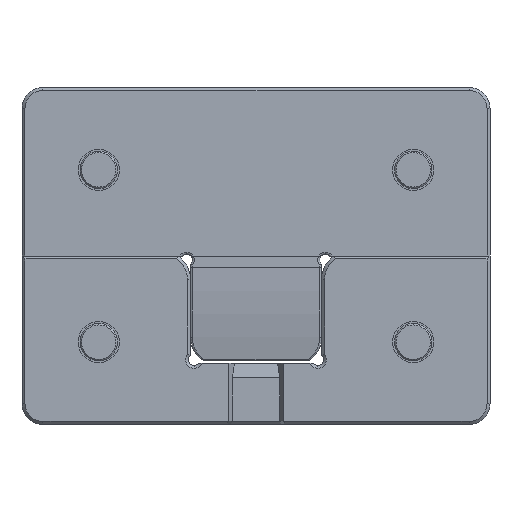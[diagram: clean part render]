
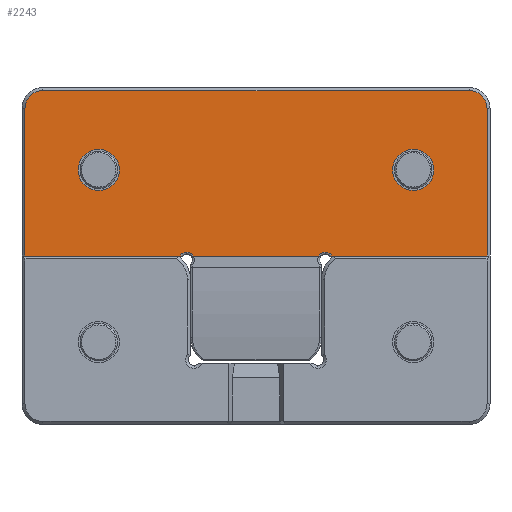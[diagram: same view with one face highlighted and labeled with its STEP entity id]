
A CAD part, front view. The second image highlights one B-rep face of the part: STEP entity #2243.
In plain terms, the highlighted planar face has unit normal (0, -1, 0).
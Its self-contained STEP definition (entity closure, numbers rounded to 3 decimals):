
#843 = PLANE ( 'NONE',  #1197 ) ;
#844 = CARTESIAN_POINT ( 'NONE',  ( -62.5, -25., 0. ) ) ;
#845 = DIRECTION ( 'NONE',  ( 0., 1., 0. ) ) ;
#846 = DIRECTION ( 'NONE',  ( 0., 0., 1. ) ) ;
#1197 = AXIS2_PLACEMENT_3D ( 'NONE', #844, #845, #846 ) ;
#1340 = AXIS2_PLACEMENT_3D ( 'NONE', #3531, #3533, #3534 ) ;
#1343 = AXIS2_PLACEMENT_3D ( 'NONE', #5605, #5607, #5609 ) ;
#1344 = AXIS2_PLACEMENT_3D ( 'NONE', #5591, #5597, #5599 ) ;
#1346 = AXIS2_PLACEMENT_3D ( 'NONE', #5602, #5635, #5636 ) ;
#1389 = AXIS2_PLACEMENT_3D ( 'NONE', #5836, #5838, #5839 ) ;
#1390 = AXIS2_PLACEMENT_3D ( 'NONE', #1488, #1502, #1503 ) ;
#1391 = AXIS2_PLACEMENT_3D ( 'NONE', #1501, #1508, #1509 ) ;
#1392 = AXIS2_PLACEMENT_3D ( 'NONE', #1485, #1505, #1506 ) ;
#1393 = AXIS2_PLACEMENT_3D ( 'NONE', #1504, #1511, #1512 ) ;
#1396 = AXIS2_PLACEMENT_3D ( 'NONE', #1510, #1521, #1522 ) ;
#1481 = CARTESIAN_POINT ( 'NONE',  ( -61.7, -25., -45. ) ) ;
#1482 = DIRECTION ( 'NONE',  ( 0., 0., -1. ) ) ;
#1485 = CARTESIAN_POINT ( 'NONE',  ( 42., -25., -22. ) ) ;
#1488 = CARTESIAN_POINT ( 'NONE',  ( -56.9, -25., -5.6 ) ) ;
#1500 = DIRECTION ( 'NONE',  ( 0., 0., 1. ) ) ;
#1501 = CARTESIAN_POINT ( 'NONE',  ( -42., -25., -22. ) ) ;
#1502 = DIRECTION ( 'NONE',  ( 0., -1., 0. ) ) ;
#1503 = DIRECTION ( 'NONE',  ( 0., 0., 1. ) ) ;
#1504 = CARTESIAN_POINT ( 'NONE',  ( 18.507, -25., -46.01 ) ) ;
#1505 = DIRECTION ( 'NONE',  ( 0., 1., 0. ) ) ;
#1506 = DIRECTION ( 'NONE',  ( 0., 0., 1. ) ) ;
#1508 = DIRECTION ( 'NONE',  ( 0., 1., 0. ) ) ;
#1509 = DIRECTION ( 'NONE',  ( 0., 0., 1. ) ) ;
#1510 = CARTESIAN_POINT ( 'NONE',  ( 56.9, -25., -5.6 ) ) ;
#1511 = DIRECTION ( 'NONE',  ( 0., 1., 0. ) ) ;
#1512 = DIRECTION ( 'NONE',  ( 0., 0., 1. ) ) ;
#1513 = CARTESIAN_POINT ( 'NONE',  ( -62.5, -25., -45. ) ) ;
#1514 = DIRECTION ( 'NONE',  ( 1., 0., 0. ) ) ;
#1518 = CARTESIAN_POINT ( 'NONE',  ( -56.9, -25., -0.8 ) ) ;
#1519 = DIRECTION ( 'NONE',  ( -1., 0., 0. ) ) ;
#1521 = DIRECTION ( 'NONE',  ( 0., -1., 0. ) ) ;
#1522 = DIRECTION ( 'NONE',  ( 0., 0., 1. ) ) ;
#1927 = VERTEX_POINT ( 'NONE', #3553 ) ;
#1928 = VERTEX_POINT ( 'NONE', #3554 ) ;
#2243 = ADVANCED_FACE ( 'NONE', ( #7639, #7636, #7643 ), #843, .F. ) ;
#2465 = EDGE_LOOP ( 'NONE', ( #2523, #2524 ) ) ;
#2472 = EDGE_LOOP ( 'NONE', ( #2525, #2526, #2527, #2528, #2529, #2530, #2531, #2532, #2533, #2534, #2535, #2536 ) ) ;
#2521 = ORIENTED_EDGE ( 'NONE', *, *, #4299, .T. ) ;
#2522 = ORIENTED_EDGE ( 'NONE', *, *, #4196, .T. ) ;
#2523 = ORIENTED_EDGE ( 'NONE', *, *, #4300, .T. ) ;
#2524 = ORIENTED_EDGE ( 'NONE', *, *, #4204, .T. ) ;
#2525 = ORIENTED_EDGE ( 'NONE', *, *, #4298, .T. ) ;
#2526 = ORIENTED_EDGE ( 'NONE', *, *, #4288, .T. ) ;
#2527 = ORIENTED_EDGE ( 'NONE', *, *, #4257, .F. ) ;
#2528 = ORIENTED_EDGE ( 'NONE', *, *, #4206, .T. ) ;
#2529 = ORIENTED_EDGE ( 'NONE', *, *, #4283, .T. ) ;
#2530 = ORIENTED_EDGE ( 'NONE', *, *, #4302, .T. ) ;
#2531 = ORIENTED_EDGE ( 'NONE', *, *, #4210, .T. ) ;
#2532 = ORIENTED_EDGE ( 'NONE', *, *, #4301, .T. ) ;
#2533 = ORIENTED_EDGE ( 'NONE', *, *, #4282, .F. ) ;
#2534 = ORIENTED_EDGE ( 'NONE', *, *, #4297, .T. ) ;
#2535 = ORIENTED_EDGE ( 'NONE', *, *, #4305, .T. ) ;
#2536 = ORIENTED_EDGE ( 'NONE', *, *, #4304, .T. ) ;
#3531 = CARTESIAN_POINT ( 'NONE',  ( 42., -25., -22. ) ) ;
#3533 = DIRECTION ( 'NONE',  ( 0., 1., 0. ) ) ;
#3534 = DIRECTION ( 'NONE',  ( 0., 0., 1. ) ) ;
#3553 = CARTESIAN_POINT ( 'NONE',  ( 42., -25., -27.5 ) ) ;
#3554 = CARTESIAN_POINT ( 'NONE',  ( 42., -25., -16.5 ) ) ;
#4196 = EDGE_CURVE ( 'NONE', #1927, #1928, #7709, .T. ) ;
#4204 = EDGE_CURVE ( 'NONE', #6325, #6326, #7721, .T. ) ;
#4206 = EDGE_CURVE ( 'NONE', #6340, #6339, #7722, .T. ) ;
#4210 = EDGE_CURVE ( 'NONE', #6187, #6186, #7725, .T. ) ;
#4257 = EDGE_CURVE ( 'NONE', #6340, #6202, #7782, .T. ) ;
#4282 = EDGE_CURVE ( 'NONE', #6372, #6373, #7804, .T. ) ;
#4283 = EDGE_CURVE ( 'NONE', #6339, #6383, #7820, .T. ) ;
#4288 = EDGE_CURVE ( 'NONE', #6382, #6202, #7824, .T. ) ;
#4297 = EDGE_CURVE ( 'NONE', #6372, #6384, #7840, .T. ) ;
#4298 = EDGE_CURVE ( 'NONE', #6381, #6382, #7843, .T. ) ;
#4299 = EDGE_CURVE ( 'NONE', #1928, #1927, #7845, .T. ) ;
#4300 = EDGE_CURVE ( 'NONE', #6326, #6325, #7847, .T. ) ;
#4301 = EDGE_CURVE ( 'NONE', #6186, #6373, #7849, .T. ) ;
#4302 = EDGE_CURVE ( 'NONE', #6383, #6187, #7811, .T. ) ;
#4304 = EDGE_CURVE ( 'NONE', #6385, #6381, #7842, .T. ) ;
#4305 = EDGE_CURVE ( 'NONE', #6384, #6385, #7853, .T. ) ;
#4810 = CARTESIAN_POINT ( 'NONE',  ( -17.497, -25., -45. ) ) ;
#4811 = DIRECTION ( 'NONE',  ( -1., 0., 0. ) ) ;
#5309 = CARTESIAN_POINT ( 'NONE',  ( 18.507, -25., -43.99 ) ) ;
#5311 = CARTESIAN_POINT ( 'NONE',  ( 16.758, -25., -45. ) ) ;
#5337 = CARTESIAN_POINT ( 'NONE',  ( -61.7, -25., -45. ) ) ;
#5402 = CARTESIAN_POINT ( 'NONE',  ( -42., -25., -27.5 ) ) ;
#5404 = CARTESIAN_POINT ( 'NONE',  ( -42., -25., -16.5 ) ) ;
#5426 = CARTESIAN_POINT ( 'NONE',  ( -18.507, -25., -43.99 ) ) ;
#5428 = CARTESIAN_POINT ( 'NONE',  ( -20.256, -25., -45. ) ) ;
#5591 = CARTESIAN_POINT ( 'NONE',  ( -42., -25., -22. ) ) ;
#5597 = DIRECTION ( 'NONE',  ( 0., 1., 0. ) ) ;
#5599 = DIRECTION ( 'NONE',  ( 0., 0., 1. ) ) ;
#5602 = CARTESIAN_POINT ( 'NONE',  ( 18.507, -25., -46.01 ) ) ;
#5605 = CARTESIAN_POINT ( 'NONE',  ( -18.507, -25., -46.01 ) ) ;
#5607 = DIRECTION ( 'NONE',  ( 0., 1., 0. ) ) ;
#5609 = DIRECTION ( 'NONE',  ( 0., 0., 1. ) ) ;
#5635 = DIRECTION ( 'NONE',  ( 0., 1., 0. ) ) ;
#5636 = DIRECTION ( 'NONE',  ( 0., 0., 1. ) ) ;
#5833 = CARTESIAN_POINT ( 'NONE',  ( 61.7, -25., -5.6 ) ) ;
#5834 = CARTESIAN_POINT ( 'NONE',  ( 17.497, -25., -45. ) ) ;
#5835 = DIRECTION ( 'NONE',  ( -1., 0., 0. ) ) ;
#5836 = CARTESIAN_POINT ( 'NONE',  ( -18.507, -25., -46.01 ) ) ;
#5838 = DIRECTION ( 'NONE',  ( 0., 1., 0. ) ) ;
#5839 = DIRECTION ( 'NONE',  ( 0., 0., 1. ) ) ;
#5910 = CARTESIAN_POINT ( 'NONE',  ( 61.7, -25., -45. ) ) ;
#5911 = CARTESIAN_POINT ( 'NONE',  ( 20.256, -25., -45. ) ) ;
#5919 = CARTESIAN_POINT ( 'NONE',  ( -56.9, -25., -0.8 ) ) ;
#5920 = CARTESIAN_POINT ( 'NONE',  ( -61.7, -25., -5.6 ) ) ;
#5921 = CARTESIAN_POINT ( 'NONE',  ( -16.758, -25., -45. ) ) ;
#5922 = CARTESIAN_POINT ( 'NONE',  ( 61.7, -25., -5.6 ) ) ;
#5923 = CARTESIAN_POINT ( 'NONE',  ( 56.9, -25., -0.8 ) ) ;
#6186 = VERTEX_POINT ( 'NONE', #5309 ) ;
#6187 = VERTEX_POINT ( 'NONE', #5311 ) ;
#6202 = VERTEX_POINT ( 'NONE', #5337 ) ;
#6325 = VERTEX_POINT ( 'NONE', #5402 ) ;
#6326 = VERTEX_POINT ( 'NONE', #5404 ) ;
#6339 = VERTEX_POINT ( 'NONE', #5426 ) ;
#6340 = VERTEX_POINT ( 'NONE', #5428 ) ;
#6372 = VERTEX_POINT ( 'NONE', #5910 ) ;
#6373 = VERTEX_POINT ( 'NONE', #5911 ) ;
#6381 = VERTEX_POINT ( 'NONE', #5919 ) ;
#6382 = VERTEX_POINT ( 'NONE', #5920 ) ;
#6383 = VERTEX_POINT ( 'NONE', #5921 ) ;
#6384 = VERTEX_POINT ( 'NONE', #5922 ) ;
#6385 = VERTEX_POINT ( 'NONE', #5923 ) ;
#7636 = FACE_BOUND ( 'NONE', #2465, .T. ) ;
#7639 = FACE_BOUND ( 'NONE', #8890, .T. ) ;
#7643 = FACE_OUTER_BOUND ( 'NONE', #2472, .T. ) ;
#7709 = CIRCLE ( 'NONE', #1340, 5.5 ) ;
#7721 = CIRCLE ( 'NONE', #1344, 5.5 ) ;
#7722 = CIRCLE ( 'NONE', #1343, 2.02 ) ;
#7725 = CIRCLE ( 'NONE', #1346, 2.02 ) ;
#7782 = LINE ( 'NONE', #4810, #7783 ) ;
#7783 = VECTOR ( 'NONE', #4811, 1000. ) ;
#7802 = VECTOR ( 'NONE', #5835, 1000. ) ;
#7804 = LINE ( 'NONE', #5834, #7802 ) ;
#7811 = LINE ( 'NONE', #1513, #7846 ) ;
#7816 = VECTOR ( 'NONE', #1482, 1000. ) ;
#7820 = CIRCLE ( 'NONE', #1389, 2.02 ) ;
#7824 = LINE ( 'NONE', #1481, #7816 ) ;
#7840 = LINE ( 'NONE', #5833, #7841 ) ;
#7841 = VECTOR ( 'NONE', #1500, 1000. ) ;
#7842 = LINE ( 'NONE', #1518, #7848 ) ;
#7843 = CIRCLE ( 'NONE', #1390, 4.8 ) ;
#7845 = CIRCLE ( 'NONE', #1392, 5.5 ) ;
#7846 = VECTOR ( 'NONE', #1514, 1000. ) ;
#7847 = CIRCLE ( 'NONE', #1391, 5.5 ) ;
#7848 = VECTOR ( 'NONE', #1519, 1000. ) ;
#7849 = CIRCLE ( 'NONE', #1393, 2.02 ) ;
#7853 = CIRCLE ( 'NONE', #1396, 4.8 ) ;
#8890 = EDGE_LOOP ( 'NONE', ( #2521, #2522 ) ) ;
